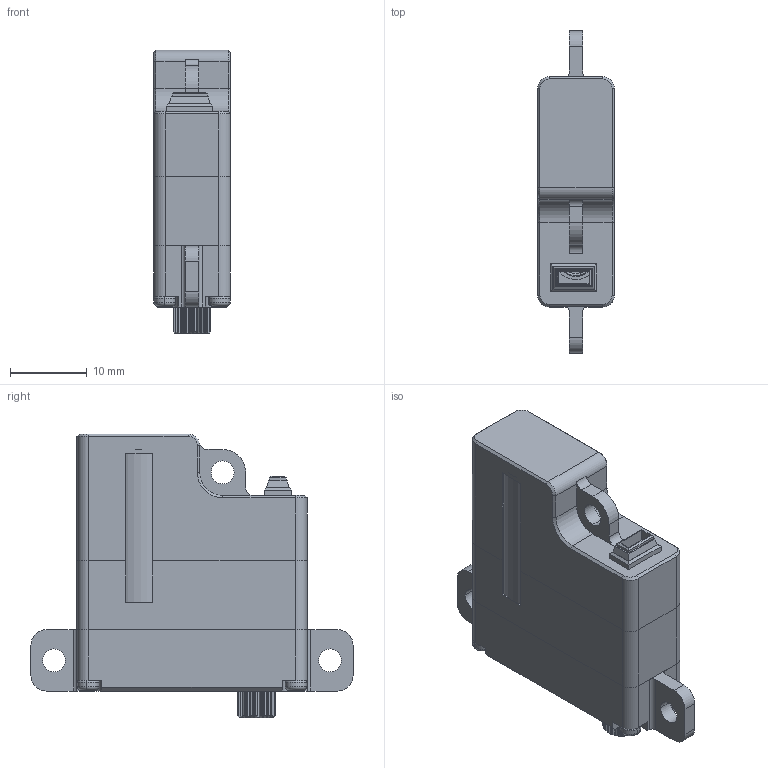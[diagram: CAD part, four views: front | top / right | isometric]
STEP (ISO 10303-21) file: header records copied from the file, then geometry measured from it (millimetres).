
FILE_DESCRIPTION (( 'STEP AP214' ), '1' );
FILE_NAME ('X10 Pro-A_DM_20230717.STEP', '2023-07-25T08:36:15', ( '' ), ( '' ), 'SwSTEP 2.0', 'SolidWorks 2016', '' );
FILE_SCHEMA (( 'AUTOMOTIVE_DESIGN' ));
Length unit declared in the file: millimetre
Products named in the file (1): X10 Pro-A_DM_20230717
Bounding box: 10 x 42 x 37 mm (x, y, z)
Surface area: 4143.4 mm2 (no closed solid volume)
Topology: 0 solids, 11 shells, 366 faces, 1031 edges, 674 vertices
Faces by surface type: plane 196, cylinder 128, cone 26, torus 16
Entity records: 16117 total; most frequent: CARTESIAN_POINT 2620, DIRECTION 1983, ORIENTED_EDGE 1924, EDGE_CURVE 1031, AXIS2_PLACEMENT_3D 694, VERTEX_POINT 674, LINE 595, VECTOR 595
